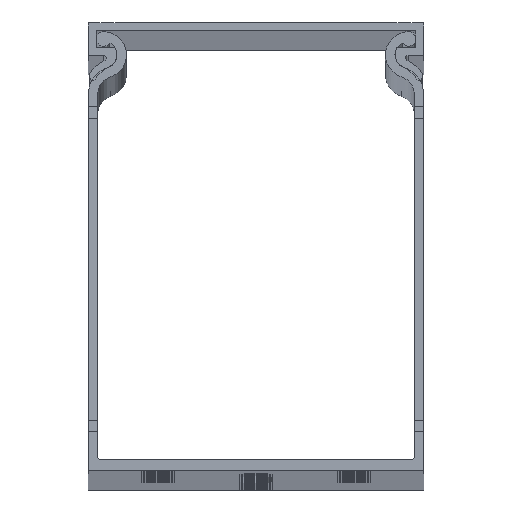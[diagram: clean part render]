
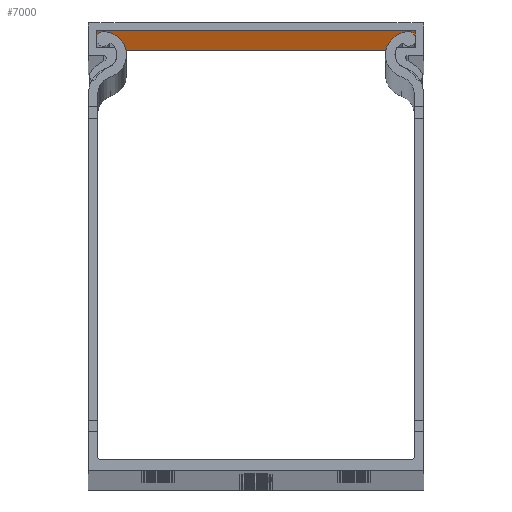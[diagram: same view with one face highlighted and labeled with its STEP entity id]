
A CAD part, top view. The second image highlights one B-rep face of the part: STEP entity #7000.
In plain terms, the highlighted planar face has unit normal (0, -1, 0).
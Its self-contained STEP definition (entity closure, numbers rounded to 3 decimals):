
#2020 = LINE ( 'NONE', #18978, #29779 ) ;
#2044 = VERTEX_POINT ( 'NONE', #58800 ) ;
#4223 = VERTEX_POINT ( 'NONE', #14899 ) ;
#5056 = VECTOR ( 'NONE', #38345, 1000. ) ;
#7000 = ADVANCED_FACE ( 'NONE', ( #39721 ), #56975, .F. ) ;
#8944 = VECTOR ( 'NONE', #15655, 1000. ) ;
#10249 = DIRECTION ( 'NONE',  ( 0., 0., 1. ) ) ;
#12238 = LINE ( 'NONE', #52263, #8944 ) ;
#14899 = CARTESIAN_POINT ( 'NONE',  ( 2540.007, 1295.656, 2000. ) ) ;
#15047 = VECTOR ( 'NONE', #16509, 1000. ) ;
#15655 = DIRECTION ( 'NONE',  ( 1., 0., 0. ) ) ;
#15734 = EDGE_CURVE ( 'NONE', #2044, #16130, #12238, .T. ) ;
#16130 = VERTEX_POINT ( 'NONE', #45126 ) ;
#16509 = DIRECTION ( 'NONE',  ( 1., 0., 0. ) ) ;
#17381 = EDGE_CURVE ( 'NONE', #4223, #66538, #62532, .T. ) ;
#18953 = ORIENTED_EDGE ( 'NONE', *, *, #45354, .F. ) ;
#18978 = CARTESIAN_POINT ( 'NONE',  ( 2540.007, 1295.656, 2000. ) ) ;
#21574 = AXIS2_PLACEMENT_3D ( 'NONE', #57659, #30812, #10249 ) ;
#21826 = ORIENTED_EDGE ( 'NONE', *, *, #51506, .T. ) ;
#22429 = CARTESIAN_POINT ( 'NONE',  ( 2568.407, 1295.656, 2000. ) ) ;
#24614 = LINE ( 'NONE', #33731, #5056 ) ;
#26321 = ORIENTED_EDGE ( 'NONE', *, *, #17381, .F. ) ;
#29158 = CARTESIAN_POINT ( 'NONE',  ( 2596.807, 1295.656, 2000. ) ) ;
#29779 = VECTOR ( 'NONE', #44840, 1000. ) ;
#30812 = DIRECTION ( 'NONE',  ( 0., 1., 0. ) ) ;
#33731 = CARTESIAN_POINT ( 'NONE',  ( 2596.807, 1295.656, 2000. ) ) ;
#38345 = DIRECTION ( 'NONE',  ( 0., 0., -1. ) ) ;
#39721 = FACE_OUTER_BOUND ( 'NONE', #58039, .T. ) ;
#44840 = DIRECTION ( 'NONE',  ( 0., 0., -1. ) ) ;
#45126 = CARTESIAN_POINT ( 'NONE',  ( 2596.807, 1295.656, 0. ) ) ;
#45354 = EDGE_CURVE ( 'NONE', #66538, #16130, #24614, .T. ) ;
#51506 = EDGE_CURVE ( 'NONE', #4223, #2044, #2020, .T. ) ;
#52263 = CARTESIAN_POINT ( 'NONE',  ( 2568.407, 1295.656, 0. ) ) ;
#56818 = ORIENTED_EDGE ( 'NONE', *, *, #15734, .T. ) ;
#56975 = PLANE ( 'NONE',  #21574 ) ;
#57659 = CARTESIAN_POINT ( 'NONE',  ( 2568.407, 1295.656, 2000. ) ) ;
#58039 = EDGE_LOOP ( 'NONE', ( #56818, #18953, #26321, #21826 ) ) ;
#58800 = CARTESIAN_POINT ( 'NONE',  ( 2540.007, 1295.656, 0. ) ) ;
#62532 = LINE ( 'NONE', #22429, #15047 ) ;
#66538 = VERTEX_POINT ( 'NONE', #29158 ) ;
